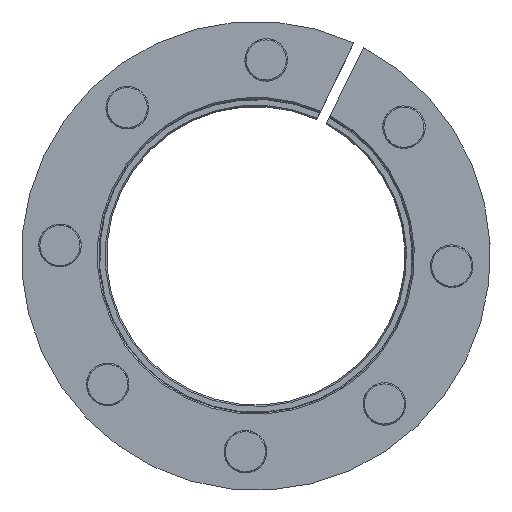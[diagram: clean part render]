
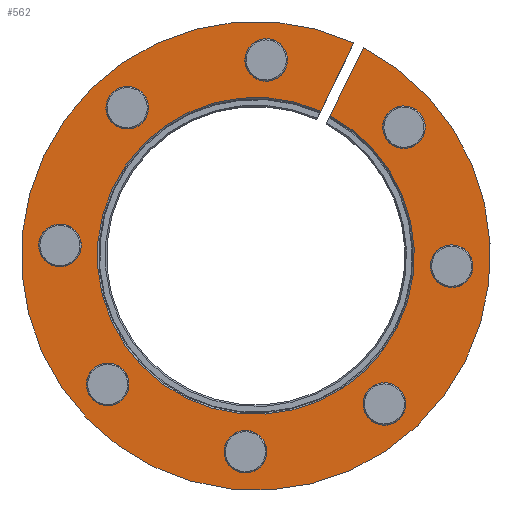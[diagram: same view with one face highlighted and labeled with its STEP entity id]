
A CAD part, left-side view. The second image highlights one B-rep face of the part: STEP entity #562.
In plain terms, the highlighted planar face has unit normal (-1, 0, 0) as drawn and (1, 0, 0) by its records, which use the part's own axes.
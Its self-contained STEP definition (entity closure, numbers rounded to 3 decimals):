
#123=CARTESIAN_POINT('',(24.,72.974,37.343));
#124=VERTEX_POINT('',#123);
#125=CARTESIAN_POINT('',(24.,72.974,42.343));
#126=DIRECTION('',(-1.0,0.0,0.0));
#127=DIRECTION('',(0.0,0.0,1.0));
#128=AXIS2_PLACEMENT_3D('',#125,#126,#127);
#129=CIRCLE('',#128,5.);
#130=EDGE_CURVE('',#124,#124,#129,.T.);
#151=CARTESIAN_POINT('',(24.,12.657,12.974));
#152=VERTEX_POINT('',#151);
#153=CARTESIAN_POINT('',(24.,12.657,17.974));
#154=DIRECTION('',(-1.0,0.0,0.0));
#155=DIRECTION('',(0.0,0.0,1.0));
#156=AXIS2_PLACEMENT_3D('',#153,#154,#155);
#157=CIRCLE('',#156,5.0);
#158=EDGE_CURVE('',#152,#152,#157,.T.);
#179=CARTESIAN_POINT('',(24.,37.026,-47.343));
#180=VERTEX_POINT('',#179);
#181=CARTESIAN_POINT('',(24.,37.026,-42.343));
#182=DIRECTION('',(-1.0,0.0,0.0));
#183=DIRECTION('',(0.0,0.0,1.0));
#184=AXIS2_PLACEMENT_3D('',#181,#182,#183);
#185=CIRCLE('',#184,5.);
#186=EDGE_CURVE('',#180,#180,#185,.T.);
#207=CARTESIAN_POINT('',(24.,97.343,-22.974));
#208=VERTEX_POINT('',#207);
#209=CARTESIAN_POINT('',(24.,97.343,-17.974));
#210=DIRECTION('',(-1.0,0.0,0.0));
#211=DIRECTION('',(0.0,0.0,1.0));
#212=AXIS2_PLACEMENT_3D('',#209,#210,#211);
#213=CIRCLE('',#212,5.);
#214=EDGE_CURVE('',#208,#208,#213,.T.);
#224=CARTESIAN_POINT('',(24.,53.75,54.986));
#225=VERTEX_POINT('',#224);
#234=CARTESIAN_POINT('',(24.,53.75,37.154));
#235=VERTEX_POINT('',#234);
#236=CARTESIAN_POINT('',(24.,53.75,37.154));
#237=DIRECTION('',(0.0,0.0,1.0));
#238=VECTOR('',#237,17.832);
#239=LINE('',#236,#238);
#240=EDGE_CURVE('',#235,#225,#239,.T.);
#297=CARTESIAN_POINT('',(24.,56.25,54.986));
#298=VERTEX_POINT('',#297);
#344=CARTESIAN_POINT('',(24.,56.25,37.154));
#345=VERTEX_POINT('',#344);
#352=CARTESIAN_POINT('',(24.,56.25,54.986));
#353=DIRECTION('',(0.0,0.0,-1.0));
#354=VECTOR('',#353,17.832);
#355=LINE('',#352,#354);
#356=EDGE_CURVE('',#298,#345,#355,.T.);
#377=CARTESIAN_POINT('',(24.,97.343,12.974));
#378=VERTEX_POINT('',#377);
#379=CARTESIAN_POINT('',(24.,97.343,17.974));
#380=DIRECTION('',(-1.0,0.0,0.0));
#381=DIRECTION('',(0.0,0.0,1.0));
#382=AXIS2_PLACEMENT_3D('',#379,#380,#381);
#383=CIRCLE('',#382,5.0);
#384=EDGE_CURVE('',#378,#378,#383,.T.);
#405=CARTESIAN_POINT('',(24.,72.974,-47.343));
#406=VERTEX_POINT('',#405);
#407=CARTESIAN_POINT('',(24.,72.974,-42.343));
#408=DIRECTION('',(-1.0,0.0,0.0));
#409=DIRECTION('',(0.0,0.0,1.0));
#410=AXIS2_PLACEMENT_3D('',#407,#408,#409);
#411=CIRCLE('',#410,5.);
#412=EDGE_CURVE('',#406,#406,#411,.T.);
#433=CARTESIAN_POINT('',(24.,12.657,-22.974));
#434=VERTEX_POINT('',#433);
#435=CARTESIAN_POINT('',(24.,12.657,-17.974));
#436=DIRECTION('',(-1.0,0.0,0.0));
#437=DIRECTION('',(0.0,0.0,1.0));
#438=AXIS2_PLACEMENT_3D('',#435,#436,#437);
#439=CIRCLE('',#438,5.);
#440=EDGE_CURVE('',#434,#434,#439,.T.);
#461=CARTESIAN_POINT('',(24.,37.026,37.343));
#462=VERTEX_POINT('',#461);
#463=CARTESIAN_POINT('',(24.,37.026,42.343));
#464=DIRECTION('',(-1.0,0.0,0.0));
#465=DIRECTION('',(0.0,0.0,1.0));
#466=AXIS2_PLACEMENT_3D('',#463,#464,#465);
#467=CIRCLE('',#466,5.);
#468=EDGE_CURVE('',#462,#462,#467,.T.);
#479=CARTESIAN_POINT('',(24.,55.,0.0));
#480=DIRECTION('',(-1.0,0.0,0.0));
#481=DIRECTION('',(0.0,-1.0,0.0));
#482=AXIS2_PLACEMENT_3D('',#479,#480,#481);
#483=CIRCLE('',#482,55.);
#484=EDGE_CURVE('',#298,#225,#483,.T.);
#521=CARTESIAN_POINT('',(24.,8.912,0.0));
#522=DIRECTION('',(1.0,0.0,0.0));
#523=DIRECTION('',(0.0,0.0,-1.0));
#524=AXIS2_PLACEMENT_3D('',#521,#522,#523);
#525=PLANE('',#524);
#526=ORIENTED_EDGE('',*,*,#356,.T.);
#527=CARTESIAN_POINT('',(24.,55.,0.0));
#528=DIRECTION('',(-1.0,0.0,0.0));
#529=DIRECTION('',(0.0,-1.0,0.0));
#530=AXIS2_PLACEMENT_3D('',#527,#528,#529);
#531=CIRCLE('',#530,37.175);
#532=EDGE_CURVE('',#345,#235,#531,.T.);
#533=ORIENTED_EDGE('',*,*,#532,.T.);
#534=ORIENTED_EDGE('',*,*,#240,.T.);
#535=ORIENTED_EDGE('',*,*,#484,.F.);
#536=EDGE_LOOP('',(#526,#533,#534,#535));
#537=FACE_OUTER_BOUND('',#536,.T.);
#538=ORIENTED_EDGE('',*,*,#468,.T.);
#539=EDGE_LOOP('',(#538));
#540=FACE_BOUND('',#539,.T.);
#541=ORIENTED_EDGE('',*,*,#440,.T.);
#542=EDGE_LOOP('',(#541));
#543=FACE_BOUND('',#542,.T.);
#544=ORIENTED_EDGE('',*,*,#412,.T.);
#545=EDGE_LOOP('',(#544));
#546=FACE_BOUND('',#545,.T.);
#547=ORIENTED_EDGE('',*,*,#384,.T.);
#548=EDGE_LOOP('',(#547));
#549=FACE_BOUND('',#548,.T.);
#550=ORIENTED_EDGE('',*,*,#214,.T.);
#551=EDGE_LOOP('',(#550));
#552=FACE_BOUND('',#551,.T.);
#553=ORIENTED_EDGE('',*,*,#186,.T.);
#554=EDGE_LOOP('',(#553));
#555=FACE_BOUND('',#554,.T.);
#556=ORIENTED_EDGE('',*,*,#158,.T.);
#557=EDGE_LOOP('',(#556));
#558=FACE_BOUND('',#557,.T.);
#559=ORIENTED_EDGE('',*,*,#130,.T.);
#560=EDGE_LOOP('',(#559));
#561=FACE_BOUND('',#560,.T.);
#562=ADVANCED_FACE('',(#537,#540,#543,#546,#549,#552,#555,#558,#561),#525,.T.);
